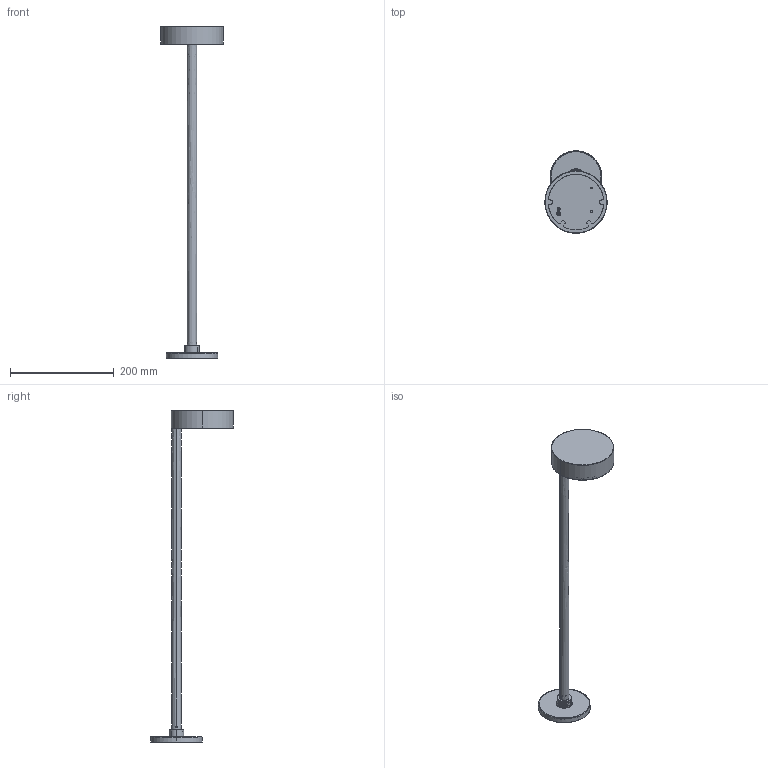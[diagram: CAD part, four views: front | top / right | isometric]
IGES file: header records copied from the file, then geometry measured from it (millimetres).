
Start section: SolidWorks IGES file using analytic representation for surfaces
Global section: file name: \\srvficheros\grupos\DISENYO\DESARROLLO DE PRODUCTO\_3D_WEB\SKAT-H2075000GR\SKAT-H2075000GR.IGS; native system: SolidWorks 2025; preprocessor: SolidWorks 2025; author: d.pons; date: 260115.093501; units: millimetre
Bounding box: 120 x 160 x 640.5 mm (x, y, z)
Surface area: 170946.2 mm2 (no closed solid volume)
Topology: 0 solids, 0 shells, 494 faces, 6802 edges, 6802 vertices
Faces by surface type: revolution 329, bspline 165
